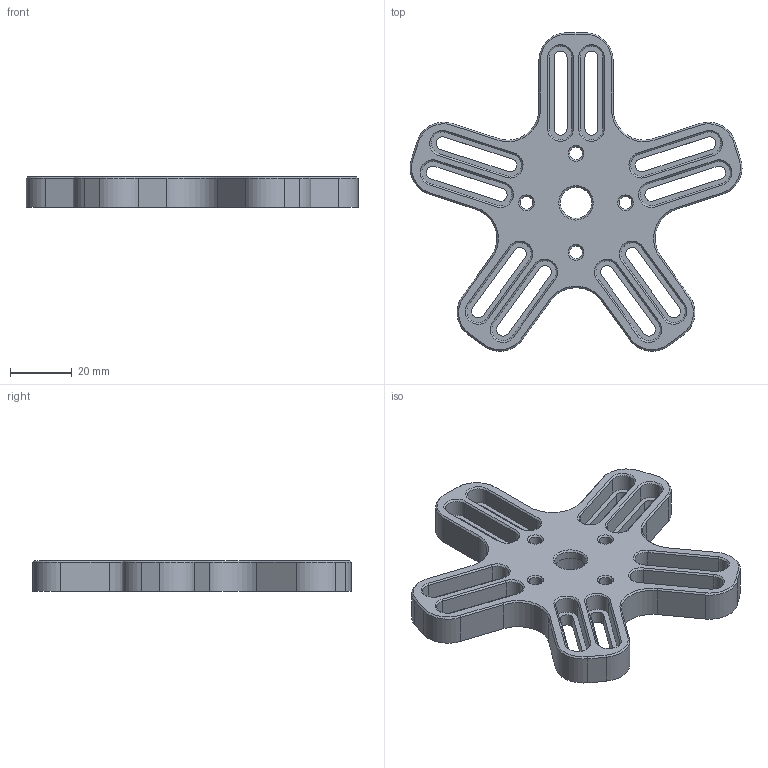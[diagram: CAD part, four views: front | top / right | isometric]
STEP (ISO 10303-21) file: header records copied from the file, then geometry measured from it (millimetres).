
FILE_DESCRIPTION (( 'STEP AP214' ), '1' );
FILE_NAME ('SMP_5S.STEP', '2019-12-04T09:10:51', ( '微软用户' ), ( '微软中国' ), 'SwSTEP 2.0', 'SolidWorks 2016', '' );
FILE_SCHEMA (( 'AUTOMOTIVE_DESIGN' ));
Length unit declared in the file: millimetre
Products named in the file (1): SMP_5S
Bounding box: 107.34 x 102.96 x 10 mm (x, y, z)
Volume: 37000.5 mm3; surface area: 20202.4 mm2
Topology: 1 solids, 1 shells, 215 faces, 526 edges, 324 vertices
Faces by surface type: plane 103, cylinder 67, cone 45
Entity records: 8718 total; most frequent: DIRECTION 1137, CARTESIAN_POINT 1066, ORIENTED_EDGE 1052, EDGE_CURVE 526, AXIS2_PLACEMENT_3D 395, VECTOR 347, LINE 347, VERTEX_POINT 324
